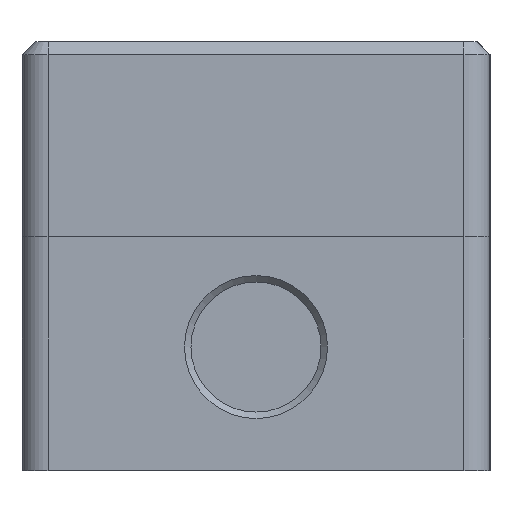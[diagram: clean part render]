
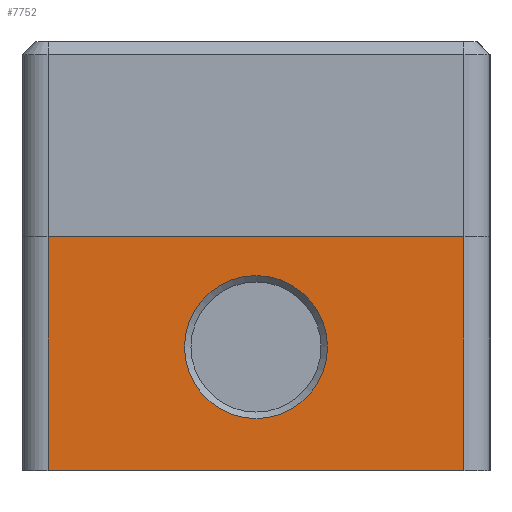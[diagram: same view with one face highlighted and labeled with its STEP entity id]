
A CAD part, left-side view. The second image highlights one B-rep face of the part: STEP entity #7752.
In plain terms, the highlighted planar face has unit normal (-1, 0, 0).
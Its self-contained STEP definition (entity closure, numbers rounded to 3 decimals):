
#450 = LINE ( 'NONE', #7865, #12601 ) ;
#1076 = AXIS2_PLACEMENT_3D ( 'NONE', #4762, #15433, #14025 ) ;
#1162 = CARTESIAN_POINT ( 'NONE',  ( 0., 36., 8. ) ) ;
#1910 = VECTOR ( 'NONE', #12124, 1000. ) ;
#2154 = ORIENTED_EDGE ( 'NONE', *, *, #16714, .T. ) ;
#2462 = DIRECTION ( 'NONE',  ( 0., -1., 0. ) ) ;
#2752 = CARTESIAN_POINT ( 'NONE',  ( 0., 4., 36. ) ) ;
#3081 = FACE_OUTER_BOUND ( 'NONE', #10987, .T. ) ;
#3324 = DIRECTION ( 'NONE',  ( 1., 0., 0. ) ) ;
#3915 = FACE_BOUND ( 'NONE', #8614, .T. ) ;
#3986 = CARTESIAN_POINT ( 'NONE',  ( 0., 68., 36. ) ) ;
#4201 = ORIENTED_EDGE ( 'NONE', *, *, #4590, .T. ) ;
#4261 = EDGE_CURVE ( 'NONE', #12956, #5402, #9336, .T. ) ;
#4590 = EDGE_CURVE ( 'NONE', #10326, #10326, #13726, .T. ) ;
#4762 = CARTESIAN_POINT ( 'NONE',  ( 0., 4., 36. ) ) ;
#5100 = ORIENTED_EDGE ( 'NONE', *, *, #6248, .T. ) ;
#5402 = VERTEX_POINT ( 'NONE', #14015 ) ;
#5904 = VECTOR ( 'NONE', #15093, 1000. ) ;
#6248 = EDGE_CURVE ( 'NONE', #6794, #8084, #17004, .T. ) ;
#6732 = LINE ( 'NONE', #2752, #1910 ) ;
#6794 = VERTEX_POINT ( 'NONE', #3986 ) ;
#7752 = ADVANCED_FACE ( 'NONE', ( #3915, #3081 ), #12799, .F. ) ;
#7865 = CARTESIAN_POINT ( 'NONE',  ( 0., 4., 0. ) ) ;
#8084 = VERTEX_POINT ( 'NONE', #10573 ) ;
#8614 = EDGE_LOOP ( 'NONE', ( #4201 ) ) ;
#9336 = LINE ( 'NONE', #14142, #17315 ) ;
#9881 = ORIENTED_EDGE ( 'NONE', *, *, #4261, .F. ) ;
#10326 = VERTEX_POINT ( 'NONE', #1162 ) ;
#10573 = CARTESIAN_POINT ( 'NONE',  ( 0., 68., 0. ) ) ;
#10987 = EDGE_LOOP ( 'NONE', ( #2154, #9881, #16837, #5100 ) ) ;
#12124 = DIRECTION ( 'NONE',  ( 0., -1., 0. ) ) ;
#12601 = VECTOR ( 'NONE', #2462, 1000. ) ;
#12799 = PLANE ( 'NONE',  #1076 ) ;
#12956 = VERTEX_POINT ( 'NONE', #13897 ) ;
#13726 = CIRCLE ( 'NONE', #16957, 11. ) ;
#13897 = CARTESIAN_POINT ( 'NONE',  ( 0., 4., 36. ) ) ;
#14015 = CARTESIAN_POINT ( 'NONE',  ( 0., 4., 0. ) ) ;
#14025 = DIRECTION ( 'NONE',  ( 0., 0., -1. ) ) ;
#14142 = CARTESIAN_POINT ( 'NONE',  ( 0., 4., 36. ) ) ;
#14236 = CARTESIAN_POINT ( 'NONE',  ( 0., 36., 19. ) ) ;
#15093 = DIRECTION ( 'NONE',  ( 0., 0., -1. ) ) ;
#15415 = DIRECTION ( 'NONE',  ( 0., 0., -1. ) ) ;
#15433 = DIRECTION ( 'NONE',  ( 1., 0., 0. ) ) ;
#15479 = DIRECTION ( 'NONE',  ( 0., 0., -1. ) ) ;
#16275 = CARTESIAN_POINT ( 'NONE',  ( 0., 68., 36. ) ) ;
#16714 = EDGE_CURVE ( 'NONE', #8084, #5402, #450, .T. ) ;
#16837 = ORIENTED_EDGE ( 'NONE', *, *, #16850, .F. ) ;
#16850 = EDGE_CURVE ( 'NONE', #6794, #12956, #6732, .T. ) ;
#16957 = AXIS2_PLACEMENT_3D ( 'NONE', #14236, #3324, #15415 ) ;
#17004 = LINE ( 'NONE', #16275, #5904 ) ;
#17315 = VECTOR ( 'NONE', #15479, 1000. ) ;
